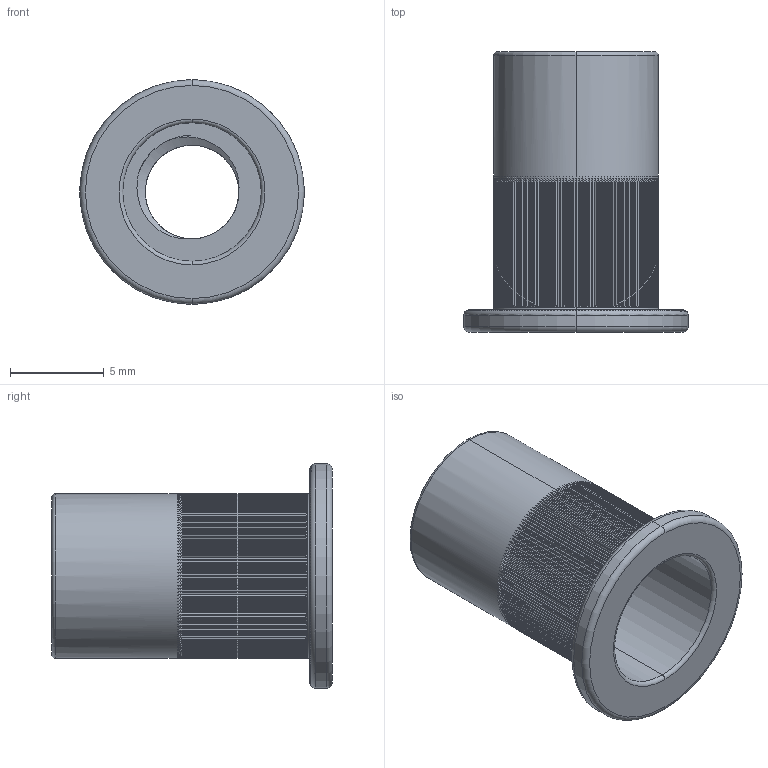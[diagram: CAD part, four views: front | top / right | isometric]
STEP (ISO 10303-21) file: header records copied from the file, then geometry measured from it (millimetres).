
FILE_DESCRIPTION (( 'STEP AP203' ), '1' );
FILE_NAME ('TANR-SAT-M6.STEP', '2026-08-24T09:15:51', ( '' ), ( '' ), 'SwSTEP 2.0', 'SolidWorks 2020', '' );
FILE_SCHEMA (( 'CONFIG_CONTROL_DESIGN' ));
Length unit declared in the file: millimetre
Products named in the file (1): TANR-SAT-M6
Bounding box: 12 x 15 x 12 mm (x, y, z)
Volume: 476.3 mm3; surface area: 1025.9 mm2
Topology: 1 solids, 1 shells, 1881 faces, 4756 edges, 2879 vertices
Faces by surface type: cone 1082, plane 764, cylinder 22, torus 10, bspline 3
Entity records: 59631 total; most frequent: CARTESIAN_POINT 17156, ORIENTED_EDGE 9512, DIRECTION 7905, EDGE_CURVE 4756, VERTEX_POINT 2879, AXIS2_PLACEMENT_3D 2831, LINE 2243, VECTOR 2243
